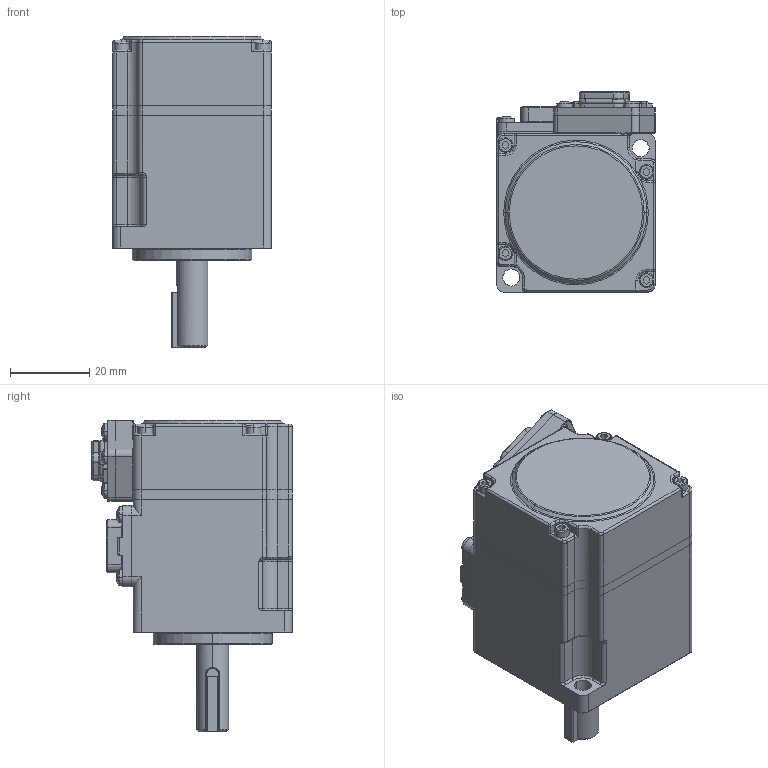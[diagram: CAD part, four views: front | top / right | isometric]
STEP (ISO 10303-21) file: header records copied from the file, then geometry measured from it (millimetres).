
FILE_DESCRIPTION((''),'2;1');
FILE_NAME('40-50W0010_ASM_5_ASM','2024-10-22T14:02:32',('admin'),(''),'CREO PARAMETRIC BY PTC INC, 2019080','CREO PARAMETRIC BY PTC INC, 2019080','');
FILE_SCHEMA(('CONFIG_CONTROL_DESIGN'));
Products named in the file (26): 40-50W0003_4; SC-MC6P-AP2G-041_1; 40-50W0002_ASM_4_ASM; 40-50W0012_4; _699000_1; _607000_1; 400004_11; 40-50W0011_ASM_3_ASM; 40000_15; M2-1-SOLID1_100_1; M2-2-SOLID1_100_1; 1_6-2-SOLID100_1; M3-3-SOLID100_1; M3-4-SOLID100_1; 2-2-SOLID10_1; 1_6-1-SOLID100_1; PCB2-1-SOLID1_10_1; _2-SOLID_10001_1; DR-M35N6B17_0001_ASM_1_ASM; SC-MC7P-A60G-18_13; 000_4; ISO14579-M2X16-8_8_2; ISO7045-M2X5-4_8_1; ISO7045-M2X4-4_8_1; 3-300_3; 40-50W0010_ASM_5_ASM
Assembly tree (34 placements, depth 3):
  40-50W0010_ASM_5_ASM
    40-50W0002_ASM_4_ASM
      40-50W0003_4
      SC-MC6P-AP2G-041_1
    40-50W0011_ASM_3_ASM
      40-50W0012_4
      _699000_1
      _607000_1
      400004_11
    40000_15
    DR-M35N6B17_0001_ASM_1_ASM
      M2-1-SOLID1_100_1
      M2-2-SOLID1_100_1
      1_6-2-SOLID100_1
      M3-3-SOLID100_1
      M3-4-SOLID100_1
      2-2-SOLID10_1
      1_6-1-SOLID100_1
      PCB2-1-SOLID1_10_1
      _2-SOLID_10001_1
    SC-MC7P-A60G-18_13
    000_4
    ISO14579-M2X16-8_8_2  x4
    ISO7045-M2X5-4_8_1  x4
    ISO7045-M2X4-4_8_1  x4
    3-300_3
Bounding box: 40 x 50.45 x 78.5 mm (x, y, z)
Volume: 51271.8 mm3; surface area: 44457.9 mm2
Topology: 31 solids, 50 shells, 2816 faces, 7516 edges, 4875 vertices
Faces by surface type: plane 1390, cylinder 959, torus 175, cone 165, extrusion 49, bspline 42, sphere 36
Entity records: 102084 total; most frequent: CARTESIAN_POINT 35495, DIRECTION 13903, ORIENTED_EDGE 13801, EDGE_CURVE 6944, AXIS2_PLACEMENT_3D 4911, VERTEX_POINT 4533, VECTOR 4081, LINE 4032
